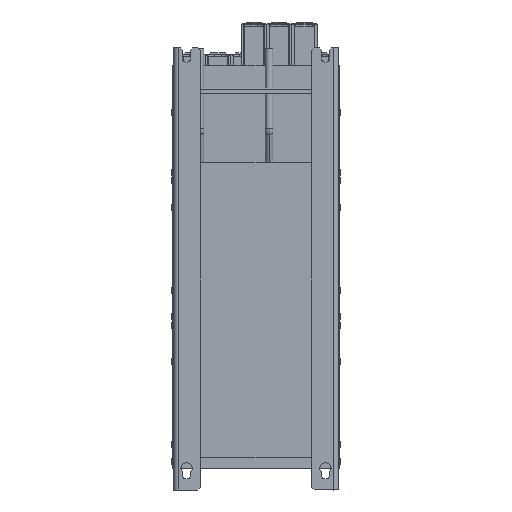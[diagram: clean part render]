
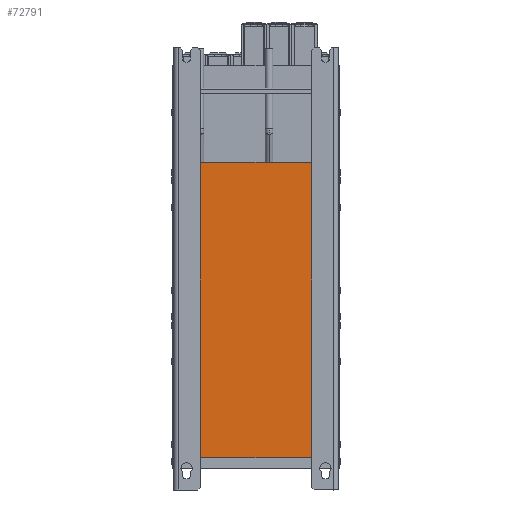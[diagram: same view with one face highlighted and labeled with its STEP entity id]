
A CAD part, front view. The second image highlights one B-rep face of the part: STEP entity #72791.
In plain terms, the highlighted planar face has unit normal (0, -1, 0).
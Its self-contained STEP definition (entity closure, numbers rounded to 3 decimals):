
#195 = VECTOR ( 'NONE', #10737, 1000. ) ;
#827 = CARTESIAN_POINT ( 'NONE',  ( 159., 0., 912.116 ) ) ;
#4334 = CARTESIAN_POINT ( 'NONE',  ( 163., 0., 0. ) ) ;
#7571 = CARTESIAN_POINT ( 'NONE',  ( 159., 0., 0. ) ) ;
#10737 = DIRECTION ( 'NONE',  ( 0., 0., -1. ) ) ;
#21177 = VERTEX_POINT ( 'NONE', #61682 ) ;
#21347 = DIRECTION ( 'NONE',  ( -1., 0., 0. ) ) ;
#23988 = VERTEX_POINT ( 'NONE', #7571 ) ;
#26334 = LINE ( 'NONE', #4334, #92816 ) ;
#28995 = CARTESIAN_POINT ( 'NONE',  ( -159., 0., 0. ) ) ;
#31514 = VECTOR ( 'NONE', #49414, 1000. ) ;
#33539 = DIRECTION ( 'NONE',  ( 1., 0., 0. ) ) ;
#34388 = EDGE_CURVE ( 'NONE', #23988, #76488, #45351, .T. ) ;
#37308 = VERTEX_POINT ( 'NONE', #28995 ) ;
#39223 = EDGE_CURVE ( 'NONE', #76488, #21177, #85343, .T. ) ;
#42305 = EDGE_CURVE ( 'NONE', #37308, #23988, #26334, .T. ) ;
#45351 = LINE ( 'NONE', #827, #66271 ) ;
#46188 = CARTESIAN_POINT ( 'NONE',  ( -159., 0., 582.5 ) ) ;
#47115 = EDGE_CURVE ( 'NONE', #21177, #37308, #47610, .T. ) ;
#47610 = LINE ( 'NONE', #46188, #195 ) ;
#48108 = AXIS2_PLACEMENT_3D ( 'NONE', #93139, #86949, #21347 ) ;
#48860 = CARTESIAN_POINT ( 'NONE',  ( 159., 0., 585. ) ) ;
#49414 = DIRECTION ( 'NONE',  ( -1., 0., 0. ) ) ;
#51884 = ORIENTED_EDGE ( 'NONE', *, *, #34388, .T. ) ;
#53960 = DIRECTION ( 'NONE',  ( 0., 0., 1. ) ) ;
#56820 = PLANE ( 'NONE',  #48108 ) ;
#57778 = FACE_OUTER_BOUND ( 'NONE', #77832, .T. ) ;
#61682 = CARTESIAN_POINT ( 'NONE',  ( -159., 0., 585. ) ) ;
#64133 = ORIENTED_EDGE ( 'NONE', *, *, #47115, .T. ) ;
#66271 = VECTOR ( 'NONE', #53960, 1000. ) ;
#72708 = ORIENTED_EDGE ( 'NONE', *, *, #39223, .T. ) ;
#72791 = ADVANCED_FACE ( 'NONE', ( #57778 ), #56820, .F. ) ;
#76488 = VERTEX_POINT ( 'NONE', #48860 ) ;
#77243 = CARTESIAN_POINT ( 'NONE',  ( 163., 0., 585. ) ) ;
#77832 = EDGE_LOOP ( 'NONE', ( #82547, #51884, #72708, #64133 ) ) ;
#82547 = ORIENTED_EDGE ( 'NONE', *, *, #42305, .T. ) ;
#85343 = LINE ( 'NONE', #77243, #31514 ) ;
#86949 = DIRECTION ( 'NONE',  ( 0., 1., 0. ) ) ;
#92816 = VECTOR ( 'NONE', #33539, 1000. ) ;
#93139 = CARTESIAN_POINT ( 'NONE',  ( 163., 0., 912.116 ) ) ;
